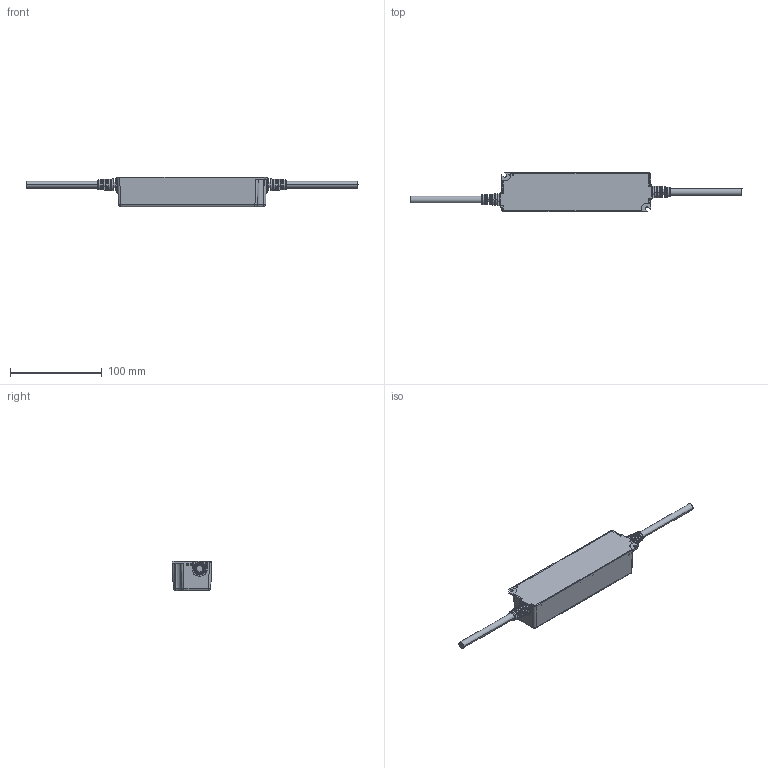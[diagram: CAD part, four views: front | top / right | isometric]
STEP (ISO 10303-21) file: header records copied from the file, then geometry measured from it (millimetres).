
FILE_DESCRIPTION(('OneSpaceDesigner STEP Export'),'2;1');
FILE_NAME('LPF-40-60.stp','2011-08-26T 8:54:28',(''),(''),'OneSpace Designer STEP processor for AP214 (Solid Model)','OneSpace Designer 13.20 11-May-2005 (C) CoCreate Software GmbH','');
FILE_SCHEMA(('AUTOMOTIVE_DESIGN { 1 0 10303 214 1 1 1 1 }'));
Length unit declared in the file: millimetre
Products named in the file (9): ¤W»\.1; ¤U»\.1; DC_CABLE.1.1.1; PCB; pin.1; HS1; MOS15.5x10.1.1.1.1.1.1.1.1.1.1.1; ¾÷ªO.1; LPF-60-SR
Assembly tree (11 placements, depth 4):
  LPF-60-SR
    DC_CABLE.1.1.1  x2
    ¾÷ªO.1
      MOS15.5x10.1.1.1.1.1.1.1.1.1.1.1  x3
      HS1
        pin.1
      PCB
    ¤U»\.1
    ¤W»\.1
Bounding box: 361.7 x 43 x 32.09 mm (x, y, z)
Volume: 69946.5 mm3; surface area: 74481.5 mm2
Topology: 9 solids, 9 shells, 1274 faces, 3471 edges, 2257 vertices
Faces by surface type: plane 739, cylinder 206, extrusion 188, torus 76, bspline 40, sphere 14, cone 11
Entity records: 36503 total; most frequent: CARTESIAN_POINT 10728, ORIENTED_EDGE 5916, DIRECTION 4257, EDGE_CURVE 2958, VECTOR 2137, LINE 1949, VERTEX_POINT 1934, EDGE_LOOP 1126
